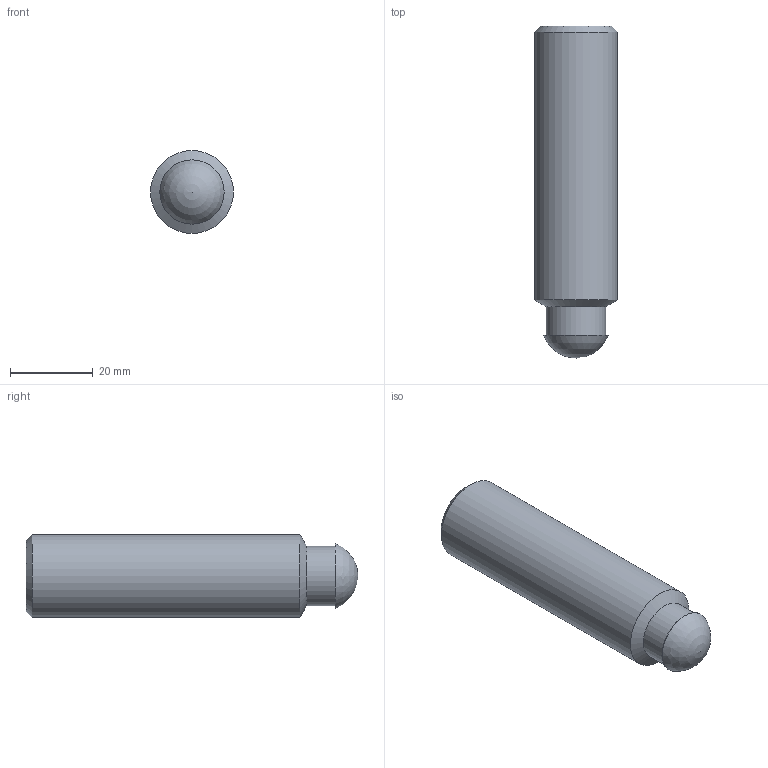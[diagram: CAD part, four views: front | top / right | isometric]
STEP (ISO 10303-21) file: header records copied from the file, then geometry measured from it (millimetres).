
FILE_DESCRIPTION( ( 'STEP AP203' ), '1' );
FILE_NAME( 'C:/Temp/Ganter_Step_05_03_2020/data/3_2/din6332/din6332/Grub screw DIN 6332-M20-80-SK.stp', '2020-03-13T05:16:25', ( 'License CC BY-ND 4.0' ), ( 'CADENAS' ), ' ', 'PARTsolutions', ' ' );
FILE_SCHEMA( ( 'CONFIG_CONTROL_DESIGN' ) );
Length unit declared in the file: millimetre
Products named in the file (1): _Grub screw DIN 6332-M20-80-SK
Bounding box: 20 x 80 x 20 mm (x, y, z)
Volume: 22341.1 mm3; surface area: 5371.6 mm2
Topology: 1 solids, 1 shells, 15 faces, 33 edges, 21 vertices
Faces by surface type: plane 9, cylinder 3, cone 2, sphere 1
Full cylindrical faces by diameter (mm): 14.4 x1, 15.5 x1, 20 x1
Entity records: 410 total; most frequent: DIRECTION 64, CARTESIAN_POINT 61, ORIENTED_EDGE 50, EDGE_CURVE 25, AXIS2_PLACEMENT_3D 23, EDGE_LOOP 22, VERTEX_POINT 20, FACE_OUTER_BOUND 18
